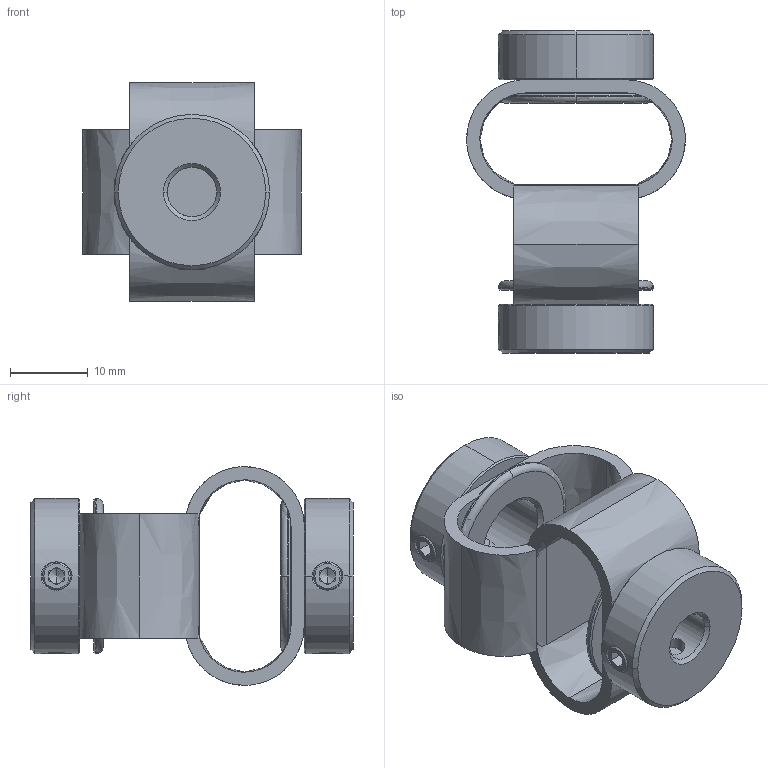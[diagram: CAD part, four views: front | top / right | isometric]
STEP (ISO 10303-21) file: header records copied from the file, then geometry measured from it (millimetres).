
FILE_DESCRIPTION (( 'STEP AP203' ), '1' );
FILE_NAME ('LS-D-D27L40-6.35-10.STEP', '2021-10-28T06:35:17', ( '' ), ( '' ), 'SwSTEP 2.0', 'SolidWorks 2018', '' );
FILE_SCHEMA (( 'CONFIG_CONTROL_DESIGN' ));
Length unit declared in the file: millimetre
Products named in the file (1): LS-D-D27L40-6.35-10
Bounding box: 28.2 x 41.54 x 28.2 mm (x, y, z)
Volume: 6845.4 mm3; surface area: 6681.1 mm2
Topology: 1 solids, 1 shells, 202 faces, 520 edges, 324 vertices
Faces by surface type: plane 86, cone 66, cylinder 30, bspline 16, torus 4
Entity records: 8071 total; most frequent: CARTESIAN_POINT 3259, ORIENTED_EDGE 1024, DIRECTION 930, EDGE_CURVE 512, AXIS2_PLACEMENT_3D 365, VERTEX_POINT 324, EDGE_LOOP 230, ADVANCED_FACE 202
